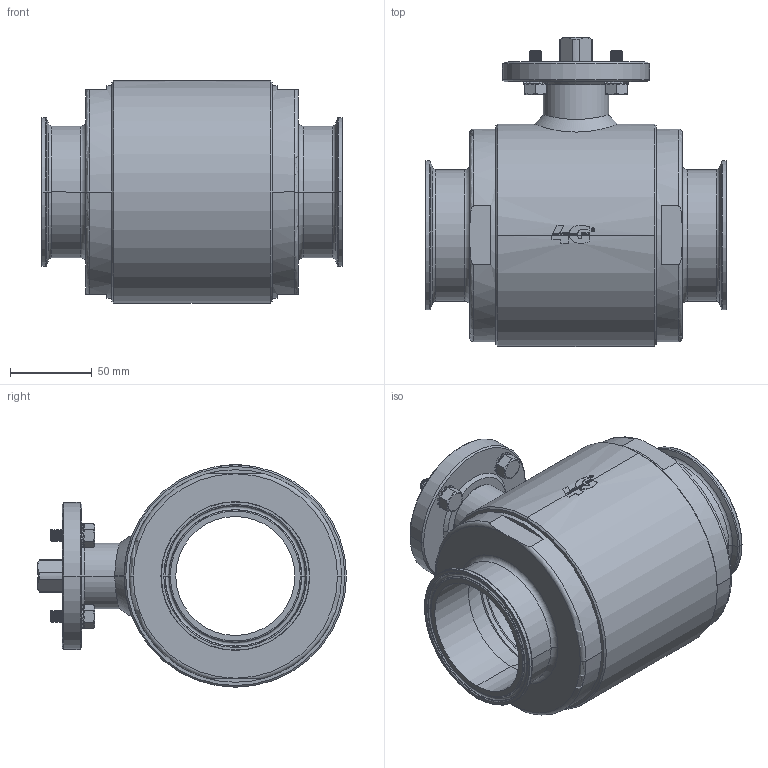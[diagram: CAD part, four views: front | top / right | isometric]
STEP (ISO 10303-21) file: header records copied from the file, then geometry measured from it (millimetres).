
FILE_DESCRIPTION((''),'2;1');
FILE_NAME('10303064810','2015-04-20T',('uff_tec'),('CDM Tecnoconsulting'),'PRO/ENGINEER BY PARAMETRIC TECHNOLOGY CORPORATION, 2010280','PRO/ENGINEER BY PARAMETRIC TECHNOLOGY CORPORATION, 2010280','');
FILE_SCHEMA(('CONFIG_CONTROL_DESIGN','SHAPE_APPEARANCE_LAYERS_GROUPS'));
Products named in the file (1): 10303064810
Bounding box: 184 x 189 x 136 mm (x, y, z)
Surface area: 178292.3 mm2 (no closed solid volume)
Topology: 0 solids, 37 shells, 796 faces, 2892 edges, 2085 vertices
Faces by surface type: cylinder 289, plane 277, cone 140, torus 46, bspline 44
Entity records: 45663 total; most frequent: CARTESIAN_POINT 23589, ORIENTED_EDGE 4552, DIRECTION 3841, EDGE_CURVE 2890, VERTEX_POINT 2085, AXIS2_PLACEMENT_3D 1516, B_SPLINE_CURVE_WITH_KNOTS 1317, EDGE_LOOP 845
